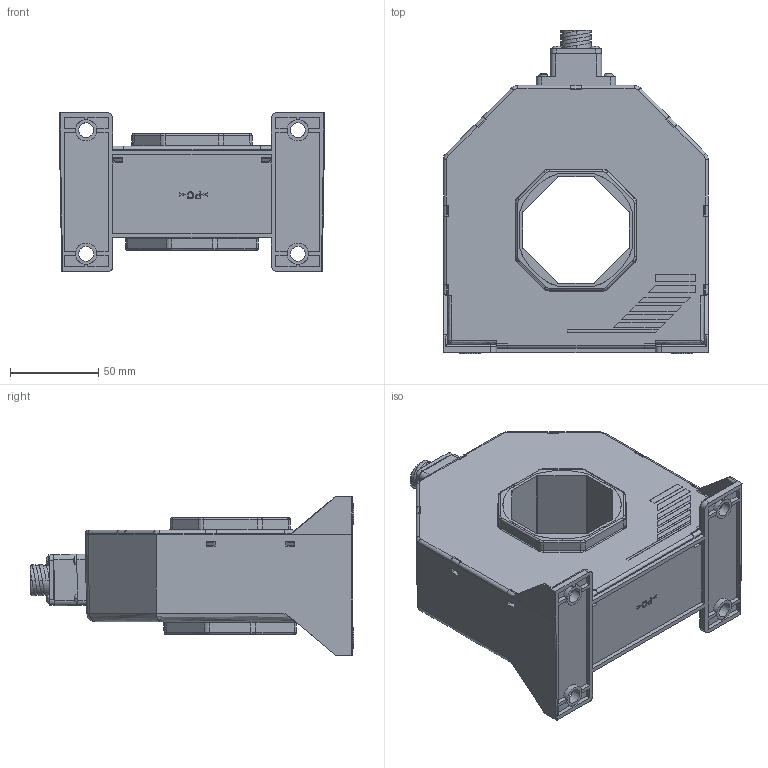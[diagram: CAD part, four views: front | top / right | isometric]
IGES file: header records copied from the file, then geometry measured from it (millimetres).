
Start section: Elysium IGES Interface
Global section: file name: \\Gva50\sd-data\Etudes\GVu\BLACK BOX\LT 2005-S\LT 2005-S_SP15_blackbox\LT 2005-S_SP15_Blakcbox.igs; native system: SolidDesigner 16.00A  16-Aug-2008; preprocessor: CoCreate IGES_3D V2.2; author: Unknown; organization: Unknown; date: 20090610.092223; units: millimetre
Bounding box: 150 x 183.29 x 90 mm (x, y, z)
Volume: 960748.9 mm3; surface area: 107331.4 mm2
Topology: 11 solids, 11 shells, 1302 faces, 3373 edges, 2162 vertices
Faces by surface type: bspline 1302
